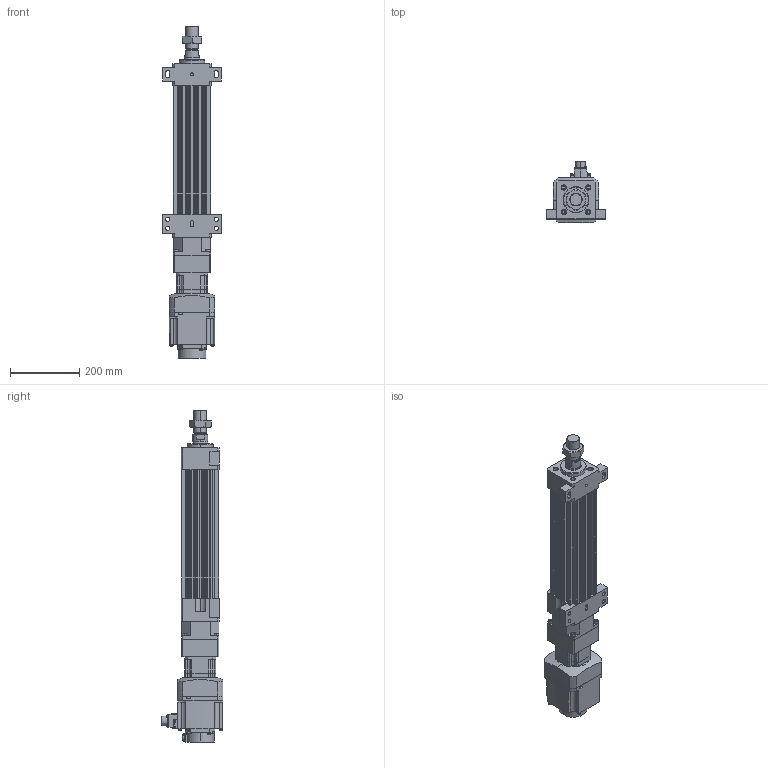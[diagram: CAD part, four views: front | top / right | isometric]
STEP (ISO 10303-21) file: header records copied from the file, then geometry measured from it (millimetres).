
FILE_DESCRIPTION (( 'STEP AP203' ), '1' );
FILE_NAME ('HES110NS(HS)-S200-W010G00-M-FFB.STEP', '2023-01-27T05:29:41', ( 'tms' ), ( '' ), 'SwSTEP 2.0', 'SolidWorks 2013', '' );
FILE_SCHEMA (( 'CONFIG_CONTROL_DESIGN' ));
Length unit declared in the file: millimetre
Products named in the file (8): M36X1.5P; HES110-S200-G090-FFB; AB0901; HES110 ROD M ST200; AB090-003[HG-SR102B]; HES110NS(HS)-S200-W010G00-M-FFB; HG-SR102; P0401301004
Assembly tree (7 placements, depth 3):
  HES110NS(HS)-S200-W010G00-M-FFB
    HES110-S200-G090-FFB
    HES110 ROD M ST200
    M36X1.5P
    AB090-003[HG-SR102B]
      AB0901
      P0401301004
    HG-SR102
Bounding box: 170 x 177.49 x 958.5 mm (x, y, z)
Volume: 6322750 mm3; surface area: 824193 mm2
Topology: 4 solids, 15 shells, 1189 faces, 3015 edges, 1964 vertices
Faces by surface type: plane 570, cylinder 529, cone 78, bspline 8, torus 4
Entity records: 37852 total; most frequent: CARTESIAN_POINT 7358, DIRECTION 6498, ORIENTED_EDGE 5982, EDGE_CURVE 3001, AXIS2_PLACEMENT_3D 2375, VERTEX_POINT 1964, LINE 1748, VECTOR 1748
